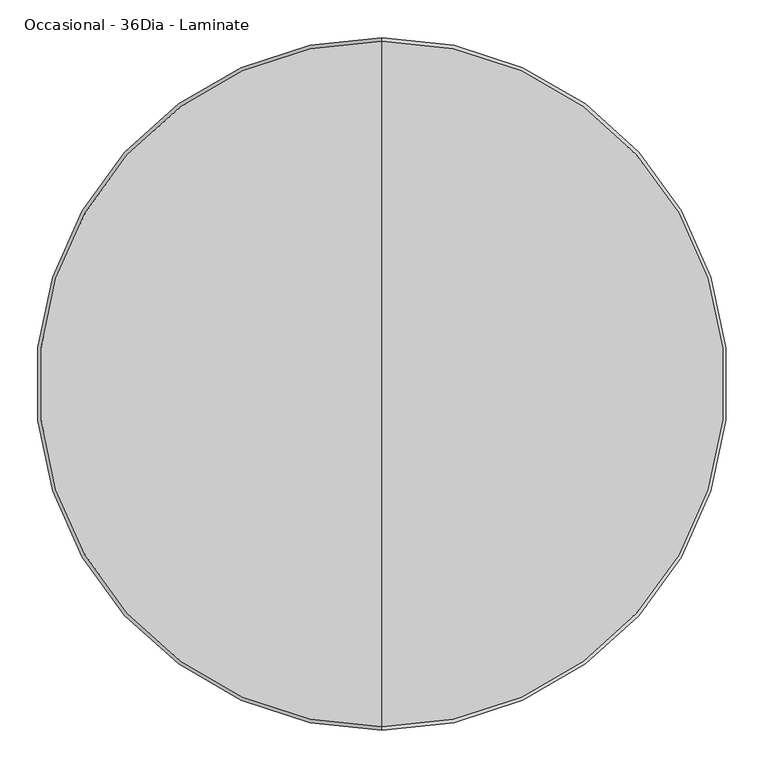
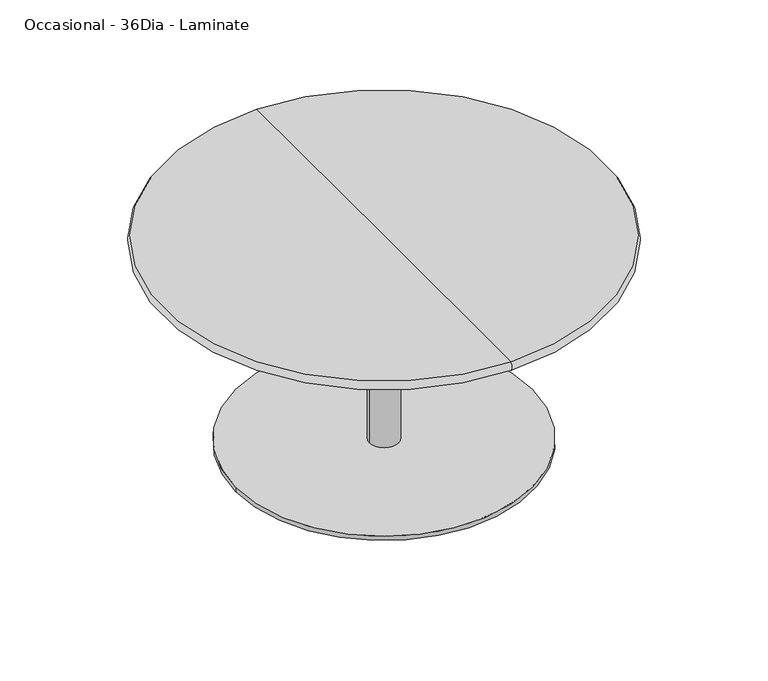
"""IFC4 building model written with IfcOpenShell, lengths in millimetres: furniture geometry, Steelcase Coalesse - Enea - Table - Single Base : Occasional - 36Dia - Laminate."""

import ifcopenshell
import ifcopenshell.guid

model = None  # the IFC model being written
_history = None  # IfcOwnerHistory: only IFC2X3 demands one
_inside = {}  # id of a spatial element -> (the spatial element, [elements in it])
_under = {}  # id of a project, library or spatial element -> (it, [spatial elements below it])
_declared = {}  # id of a project -> (the project, [libraries it declares])
_typed = {}  # id of a type object -> (the type object, [elements of that type])
_made_of = {}  # id of a material, layer set ... -> (it, [elements and type objects made of it])


def new_model(schema):
    """Start an empty IFC model of exactly this schema.

    Asked for "IFC4X3", IfcOpenShell would pick the latest addendum, in which some entities
    have other attributes; the version numbers below select the first issue.
    IFC2X3 requires an IfcOwnerHistory on every rooted entity: one is made here for all.
    """
    global model, _history
    if schema == "IFC4X3":
        model = ifcopenshell.file(schema_version=(4, 3, 0, 0))
    else:
        model = ifcopenshell.file(schema=schema)
    _inside.clear()
    _under.clear()
    _declared.clear()
    _typed.clear()
    _made_of.clear()
    _history = None
    if model.schema == "IFC2X3":
        org = make("IfcOrganization", Name="unknown")
        user = make(
            "IfcPersonAndOrganization",
            ThePerson=make("IfcPerson", FamilyName="unknown"),
            TheOrganization=org,
        )
        app = make(
            "IfcApplication",
            ApplicationDeveloper=org,
            Version="unknown",
            ApplicationFullName="unknown",
            ApplicationIdentifier="unknown",
        )
        _history = make(
            "IfcOwnerHistory",
            OwningUser=user,
            OwningApplication=app,
            ChangeAction="ADDED",
            CreationDate=0,
        )
    return model


def make(cls, **values):
    """One entity of the class cls with the attributes given. An attribute that is None is left unset."""
    return model.create_entity(
        cls, **{name: value for name, value in values.items() if value is not None}
    )


def rooted(cls, **values):
    """An entity with a GlobalId (a new one), such as an element, a storey or a relation."""
    return make(cls, GlobalId=ifcopenshell.guid.new(), OwnerHistory=_history, **values)


def si_unit(unit_type, name, prefix=None):
    """IfcSIUnit, for example si_unit("LENGTHUNIT", "METRE", prefix="MILLI")."""
    return make("IfcSIUnit", UnitType=unit_type, Prefix=prefix, Name=name)


def assignment(units):
    """IfcUnitAssignment: the units of a project."""
    return None if units is None else make("IfcUnitAssignment", Units=units)


def point(xyz):
    """IfcCartesianPoint."""
    return None if xyz is None else make("IfcCartesianPoint", Coordinates=xyz)


def direction(xyz):
    """IfcDirection."""
    return None if xyz is None else make("IfcDirection", DirectionRatios=xyz)


def frame(location, z_axis=None, x_axis=None):
    """IfcAxis2Placement3D, a coordinate frame: its origin and axes. An axis left out is left unset."""
    return make(
        "IfcAxis2Placement3D",
        Location=point(location),
        Axis=direction(z_axis),
        RefDirection=direction(x_axis),
    )


def frame_2d(location, x_axis=None):
    """IfcAxis2Placement2D, a coordinate frame in the plane: its origin and x axis."""
    return make(
        "IfcAxis2Placement2D", Location=point(location), RefDirection=direction(x_axis)
    )


def origin():
    """The frame at (0, 0, 0) with its axes left unset."""
    return frame((0.0, 0.0, 0.0))


def origin_with_axes():
    """The frame at (0, 0, 0) with the z axis (0, 0, 1) and the x axis (1, 0, 0) written out."""
    return frame((0.0, 0.0, 0.0), z_axis=(0.0, 0.0, 1.0), x_axis=(1.0, 0.0, 0.0))


def place(relative_to, where):
    """IfcLocalPlacement: puts the frame where relative to a parent placement (None: the world)."""
    return make(
        "IfcLocalPlacement", PlacementRelTo=relative_to, RelativePlacement=where
    )


def context(
    kind, dimensions, precision=None, world=None, true_north=None, identifier=None
):
    """IfcGeometricRepresentationContext, for example the 3D "Model" context."""
    return make(
        "IfcGeometricRepresentationContext",
        ContextIdentifier=identifier,
        ContextType=kind,
        CoordinateSpaceDimension=dimensions,
        Precision=precision,
        WorldCoordinateSystem=world,
        TrueNorth=true_north,
    )


def project(units=None, contexts=None):
    """IfcProject with its units and contexts."""
    return rooted(
        "IfcProject",
        Name="project",
        RepresentationContexts=contexts,
        UnitsInContext=assignment(units),
    )


def spatial(cls, under=None, at=None, **own):
    """A site, building, storey or space (cls), placed at a placement, below another one or the project."""
    s = rooted(cls, ObjectPlacement=at, **own)
    if under is not None:
        _under.setdefault(under.id(), (under, []))[1].append(s)
    return s


def circle_curve(where, radius):
    """IfcCircle in the frame where."""
    return make("IfcCircle", Position=where, Radius=radius)


def ellipse_curve(where, semi_axis1, semi_axis2):
    """IfcEllipse in the frame where."""
    return make(
        "IfcEllipse", Position=where, SemiAxis1=semi_axis1, SemiAxis2=semi_axis2
    )


def trimmed(basis, trim1, trim2, sense, master):
    """IfcTrimmedCurve: the piece of a basis curve between two trims."""
    return make(
        "IfcTrimmedCurve",
        BasisCurve=basis,
        Trim1=trim1,
        Trim2=trim2,
        SenseAgreement=sense,
        MasterRepresentation=master,
    )


def segment(curve, same_sense, transition):
    """IfcCompositeCurveSegment."""
    return make(
        "IfcCompositeCurveSegment",
        Transition=transition,
        SameSense=same_sense,
        ParentCurve=curve,
    )


def composite_curve(segments, self_intersect=None):
    """IfcCompositeCurve: segments joined end to end."""
    return make("IfcCompositeCurve", Segments=segments, SelfIntersect=self_intersect)


def outline(outer, holes=None, kind="AREA"):
    """IfcArbitraryClosedProfileDef: a profile drawn as a closed curve; with holes, ...WithVoids."""
    if holes is None:
        return make("IfcArbitraryClosedProfileDef", ProfileType=kind, OuterCurve=outer)
    return make(
        "IfcArbitraryProfileDefWithVoids",
        ProfileType=kind,
        OuterCurve=outer,
        InnerCurves=holes,
    )


def extrude(swept, where, along, depth):
    """IfcExtrudedAreaSolid: the profile swept, set in the frame where, extruded along a direction by depth."""
    return make(
        "IfcExtrudedAreaSolid",
        SweptArea=swept,
        Position=where,
        ExtrudedDirection=direction(along),
        Depth=depth,
    )


def shape(context_of_items, identifier, shape_type, items):
    """IfcShapeRepresentation: the items that make up one representation, for example the "Body"."""
    return make(
        "IfcShapeRepresentation",
        ContextOfItems=context_of_items,
        RepresentationIdentifier=identifier,
        RepresentationType=shape_type,
        Items=items,
    )


def source(mapping_origin, context_of_items, identifier, shape_type, items):
    """IfcRepresentationMap: a shape defined once, which mapped items show again and again."""
    return make(
        "IfcRepresentationMap",
        MappingOrigin=mapping_origin,
        MappedRepresentation=shape(context_of_items, identifier, shape_type, items),
    )


def transform(
    local_origin,
    x_axis=None,
    y_axis=None,
    z_axis=None,
    scale=None,
    scale2=None,
    scale3=None,
    uniform=True,
):
    """IfcCartesianTransformationOperator3D, or its non-uniform kind. x_axis, y_axis, z_axis: its Axis1, 2, 3."""
    if uniform:
        return make(
            "IfcCartesianTransformationOperator3D",
            Axis1=direction(x_axis),
            Axis2=direction(y_axis),
            LocalOrigin=point(local_origin),
            Scale=scale,
            Axis3=direction(z_axis),
        )
    return make(
        "IfcCartesianTransformationOperator3DnonUniform",
        Axis1=direction(x_axis),
        Axis2=direction(y_axis),
        LocalOrigin=point(local_origin),
        Scale=scale,
        Axis3=direction(z_axis),
        Scale2=scale2,
        Scale3=scale3,
    )


def mapped(mapping_source, mapping_target):
    """IfcMappedItem: shows the shape of a source again, moved by a transform."""
    return make(
        "IfcMappedItem", MappingSource=mapping_source, MappingTarget=mapping_target
    )


def made_of(thing, what):
    """Note that an element or type object is made of a material, layer set ...; save() writes the relation."""
    if what is not None:
        _made_of.setdefault(what.id(), (what, []))[1].append(thing)
    return thing


def element(
    cls,
    number,
    at=None,
    inside=None,
    cuts=None,
    type_object=None,
    material=None,
    context=None,
    identifier="Body",
    shape_type=None,
    held_by="IfcProductDefinitionShape",
    body=None,
    shapes=None,
    **own,
):
    """One element of the class cls, such as IfcWall. Its Tag is "e" and its number.

    at: its placement. inside: the storey or other place that contains it. cuts: it is an
    opening in that element (IfcRelVoidsElement). A single representation is given by context,
    identifier, shape_type and body (its items); several are given by shapes. held_by: the class
    of the entity that holds the representations. save() writes the other relations.
    """
    e = rooted(cls, Tag="e%d" % number, ObjectPlacement=at, **own)
    if body is not None:
        shapes = [shape(context, identifier, shape_type, body)]
    if shapes is not None:
        e.Representation = make(held_by, Representations=shapes)
    if inside is not None:
        _inside.setdefault(inside.id(), (inside, []))[1].append(e)
    if cuts is not None:
        rooted(
            "IfcRelVoidsElement", RelatingBuildingElement=cuts, RelatedOpeningElement=e
        )
    if type_object is not None:
        _typed.setdefault(type_object.id(), (type_object, []))[1].append(e)
    return made_of(e, material)


def aggregate(whole, parts):
    """IfcRelAggregates: a whole, such as a stair, and the parts it consists of."""
    return rooted("IfcRelAggregates", RelatingObject=whole, RelatedObjects=parts)


def save(model, path):
    """Write the relations noted so far, then the file.

    IfcRelAggregates (storeys below a building ...), IfcRelContainedInSpatialStructure (elements
    in a storey), IfcRelDefinesByType, IfcRelAssociatesMaterial and IfcRelDeclares: one each for
    every whole, place, type object, material and project.
    """
    for whole, parts in _under.values():
        aggregate(whole, parts)
    for where, things in _inside.values():
        rooted(
            "IfcRelContainedInSpatialStructure",
            RelatedElements=things,
            RelatingStructure=where,
        )
    for kind, things in _typed.values():
        rooted("IfcRelDefinesByType", RelatedObjects=things, RelatingType=kind)
    for what, things in _made_of.values():
        rooted("IfcRelAssociatesMaterial", RelatedObjects=things, RelatingMaterial=what)
    for by, libraries in _declared.values():
        rooted("IfcRelDeclares", RelatingContext=by, RelatedDefinitions=libraries)
    model.write(path)


def plane_surface(at):
    """IfcPlane: the flat surface through the origin of the frame at, square to its z axis."""
    return make("IfcPlane", Position=at)


def revolved_surface(curve, axis_point, axis_direction):
    """IfcSurfaceOfRevolution: the curve turned about the line through axis_point along axis_direction."""
    return make(
        "IfcSurfaceOfRevolution",
        SweptCurve=make("IfcArbitraryOpenProfileDef", ProfileType="CURVE", Curve=curve),
        AxisPosition=make("IfcAxis1Placement", Location=point(axis_point), Axis=direction(axis_direction)),
    )


def advanced_brep(points, edges, surfaces, faces):
    """IfcAdvancedBrep: a solid bounded by faces that lie on surfaces and meet in shared edges.

    An edge is (start, end): straight between two places in points (the first is 0);
    or (start, end, curve); or (start, end, curve, False) where it runs against its curve.
    A face is (place in surfaces, loops), or (place, loops, False) where it looks against
    its surface's normal. A loop lists edges by number (the first is 1), with a minus sign
    where the edge is run from its end to its start. The first loop is the outer one.
    """
    corners = [point(p) for p in points]
    vertices = [make("IfcVertexPoint", VertexGeometry=c) for c in corners]
    made = []
    for start, end, *more in edges:
        made.append(
            make(
                "IfcEdgeCurve",
                EdgeStart=vertices[start],
                EdgeEnd=vertices[end],
                EdgeGeometry=more[0] if more else make("IfcPolyline", Points=[corners[start], corners[end]]),
                SameSense=more[1] if len(more) > 1 else True,
            )
        )
    hull = []
    for where, loops, *sense in faces:
        bounds = []
        for j, loop in enumerate(loops):
            ring = [make("IfcOrientedEdge", EdgeElement=made[abs(k) - 1], Orientation=k > 0) for k in loop]
            bounds.append(
                make(
                    "IfcFaceOuterBound" if j == 0 else "IfcFaceBound",
                    Bound=make("IfcEdgeLoop", EdgeList=ring),
                    Orientation=True,
                )
            )
        hull.append(make("IfcAdvancedFace", Bounds=bounds, FaceSurface=surfaces[where], SameSense=sense[0] if sense else True))
    return make("IfcAdvancedBrep", Outer=make("IfcClosedShell", CfsFaces=hull))


def occasional_36dia_laminate_63b6d017(model_context):
    return source(origin(), model_context, "Body", "SolidModel", [
        extrude(outline(composite_curve([segment(trimmed(circle_curve(frame_2d((537.718, -284.0746893)), 25.4), [point((512.318, -284.0746893))], [point((563.118, -284.0746893))], False, "CARTESIAN"), True, "CONTINUOUS"), segment(trimmed(circle_curve(frame_2d((537.718, -284.0746893)), 25.4), [point((563.118, -284.0746893))], [point((512.318, -284.0746893))], False, "CARTESIAN"), True, "CONTINUOUS")], self_intersect=False)), origin_with_axes(), (0.0, 0.0, 1.0), 6.35),
        extrude(outline(composite_curve([segment(trimmed(circle_curve(frame_2d((791.3613107, -537.3772238)), 25.4), [point((765.9613107, -537.3772238))], [point((816.7613107, -537.3772238))], False, "CARTESIAN"), True, "CONTINUOUS"), segment(trimmed(circle_curve(frame_2d((791.3613107, -537.3772238)), 25.4), [point((816.7613107, -537.3772238))], [point((765.9613107, -537.3772238))], False, "CARTESIAN"), True, "CONTINUOUS")], self_intersect=False)), origin_with_axes(), (0.0, 0.0, 1.0), 6.35),
        extrude(outline(composite_curve([segment(trimmed(circle_curve(frame_2d((284.0746893, -537.3772238)), 25.4), [point((258.6746893, -537.3772238))], [point((309.4746893, -537.3772238))], False, "CARTESIAN"), True, "CONTINUOUS"), segment(trimmed(circle_curve(frame_2d((284.0746893, -537.3772238)), 25.4), [point((309.4746893, -537.3772238))], [point((258.6746893, -537.3772238))], False, "CARTESIAN"), True, "CONTINUOUS")], self_intersect=False)), origin_with_axes(), (0.0, 0.0, 1.0), 6.35),
        extrude(outline(composite_curve([segment(trimmed(circle_curve(frame_2d((537.718, -790.6797584)), 25.4), [point((512.318, -790.6797584))], [point((563.118, -790.6797584))], False, "CARTESIAN"), True, "CONTINUOUS"), segment(trimmed(circle_curve(frame_2d((537.718, -790.6797584)), 25.4), [point((563.118, -790.6797584))], [point((512.318, -790.6797584))], False, "CARTESIAN"), True, "CONTINUOUS")], self_intersect=False)), origin_with_axes(), (0.0, 0.0, 1.0), 6.35),
        advanced_brep(
        [(537.718, -990.6075871, 457.2), (537.718, -84.8284129, 457.2), (537.718, -537.718, 457.2), (537.718, -990.6075871, 438.15), (537.718, -84.8284129, 438.15), (537.718, -537.718, 438.15)],
        [
            (0, 1, circle_curve(frame((537.718, -537.718, 457.2), z_axis=(0.0, 0.0, 1.0), x_axis=(0.0, 1.0, 0.0)), 452.8895871)),
            (1, 2),
            (2, 0),
            (1, 0, circle_curve(frame((537.718, -537.718, 457.2), z_axis=(0.0, 0.0, 1.0), x_axis=(0.0, 1.0, 0.0)), 452.8895871)),
            (3, 4, circle_curve(frame((537.718, -537.718, 438.15), z_axis=(0.0, 0.0, 1.0), x_axis=(0.0, 1.0, 0.0)), 452.8895871)),
            (4, 1, circle_curve(frame((537.718, -93.1968446, 447.675), z_axis=(1.0, 0.0, 0.0), x_axis=(0.0, -1.0, 0.0)), 12.6789697)),
            (0, 3, circle_curve(frame((537.718, -982.2391554, 447.675), z_axis=(1.0, 0.0, 0.0), x_axis=(0.0, 1.0, 0.0)), 12.6789697)),
            (4, 3, circle_curve(frame((537.718, -537.718, 438.15), z_axis=(0.0, 0.0, 1.0), x_axis=(0.0, 1.0, 0.0)), 452.8895871)),
            (5, 4),
            (3, 5),
        ],
        [
            plane_surface(frame((537.718, -537.718, 457.2), z_axis=(0.0, 0.0, 1.0), x_axis=(0.0, 1.0, 0.0))),
            revolved_surface(trimmed(ellipse_curve(frame((537.718, -93.1968446, 447.675), z_axis=(-1.0, 0.0, 0.0), x_axis=(0.0, -1.0, 0.0)), 12.6789697, 12.6789697), [point((537.718, -84.8284129, 457.2))], [point((537.718, -84.8284129, 438.15))], True, "CARTESIAN"), (537.718, -537.718, 498.7678651), (0.0, 0.0, -1.0)),
            plane_surface(frame((537.718, -537.718, 438.15), z_axis=(0.0, 0.0, -1.0), x_axis=(0.0, 1.0, 0.0))),
        ],
        [
            (0, [[1, 2, 3]]),
            (0, [[4, -3, -2]]),
            (1, [[5, 6, -1, 7]]),
            (1, [[8, -7, -4, -6]]),
            (2, [[9, -5, 10]]),
            (2, [[-10, -8, -9]]),
        ],
    ),
        extrude(outline(composite_curve([segment(trimmed(circle_curve(frame_2d((537.718, -537.718)), 304.8), [point((842.518, -537.718))], [point((232.918, -537.718))], False, "CARTESIAN"), True, "CONTINUOUS"), segment(trimmed(circle_curve(frame_2d((537.718, -537.718)), 304.8), [point((232.918, -537.718))], [point((842.518, -537.718))], False, "CARTESIAN"), True, "CONTINUOUS")], self_intersect=False)), frame((0.0, 0.0, 6.35), z_axis=(0.0, 0.0, 1.0), x_axis=(1.0, 0.0, 0.0)), (0.0, 0.0, 1.0), 9.525),
        extrude(outline(composite_curve([segment(trimmed(circle_curve(frame_2d((537.7182907, -537.7179273)), 30.0214725), [point((567.7397632, -537.7179273))], [point((507.6968182, -537.7179273))], False, "CARTESIAN"), True, "CONTINUOUS"), segment(trimmed(circle_curve(frame_2d((537.7182907, -537.7179273)), 30.0214725), [point((507.6968182, -537.7179273))], [point((567.7397632, -537.7179273))], False, "CARTESIAN"), True, "CONTINUOUS")], self_intersect=False)), frame((0.0, 0.0, 15.875), z_axis=(0.0, 0.0, 1.0), x_axis=(1.0, 0.0, 0.0)), (0.0, 0.0, 1.0), 422.275),
    ])


if __name__ == "__main__":
    model = new_model("IFC4")
    model_context = context("Model", 3, world=origin())
    ifc_project = project(units=[si_unit("LENGTHUNIT", "METRE", prefix="MILLI")], contexts=[model_context])
    site = spatial("IfcSite", under=ifc_project)
    building = spatial("IfcBuilding", under=site)
    placement = place(None, origin())
    occasional_36dia_laminate_shape = occasional_36dia_laminate_63b6d017(model_context)
    element("IfcFurniture", 1, ObjectType="Steelcase Coalesse - Enea - Table - Single Base : Occasional - 36Dia - Laminate", at=placement, inside=building, context=model_context, shape_type="MappedRepresentation", body=[
        mapped(occasional_36dia_laminate_shape, transform((0.0, 0.0, 0.0), x_axis=(1.0, 0.0, 0.0), y_axis=(0.0, 1.0, 0.0), z_axis=(0.0, 0.0, 1.0))),
    ])
    save(model, "model.ifc")
